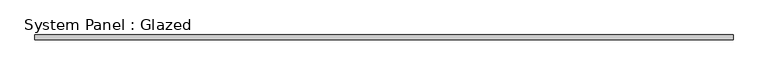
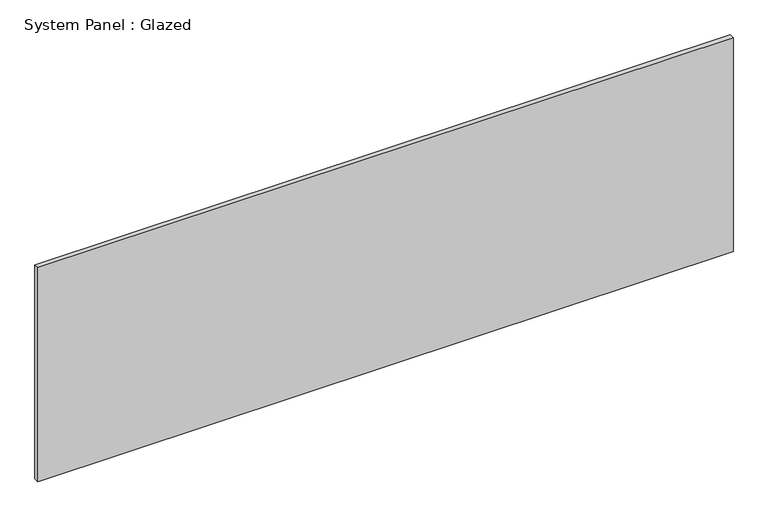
"""IFC4 building model written with IfcOpenShell, lengths in millimetres: plate geometry, System Panel : Glazed."""

from ifc_helpers import new_model, si_unit, origin, origin_with_axes, place, context, project, spatial, polyline, outline, extrude, source, transform, mapped, element, save


def system_panel_glazed_01c601c5(model_context):
    return source(origin(), model_context, "Body", "SweptSolid", [
        extrude(outline(polyline([(1765.8241963, -49.5), (-1765.8241963, -49.5), (-1765.8241963, -24.5), (1765.8241963, -24.5), (1765.8241963, -49.5)])), origin_with_axes(), (0.0, 0.0, 1.0), 1150.0),
    ])


if __name__ == "__main__":
    model = new_model("IFC4")
    model_context = context("Model", 3, world=origin())
    ifc_project = project(units=[si_unit("LENGTHUNIT", "METRE", prefix="MILLI")], contexts=[model_context])
    site = spatial("IfcSite", under=ifc_project)
    building = spatial("IfcBuilding", under=site)
    placement = place(None, origin())
    system_panel_glazed_shape = system_panel_glazed_01c601c5(model_context)
    element("IfcPlate", 1, ObjectType="System Panel : Glazed", at=placement, inside=building, context=model_context, shape_type="MappedRepresentation", body=[
        mapped(system_panel_glazed_shape, transform((0.0, 0.0, 0.0), x_axis=(1.0, 0.0, 0.0), y_axis=(0.0, 1.0, 0.0), z_axis=(0.0, 0.0, 1.0))),
    ])
    save(model, "model.ifc")
